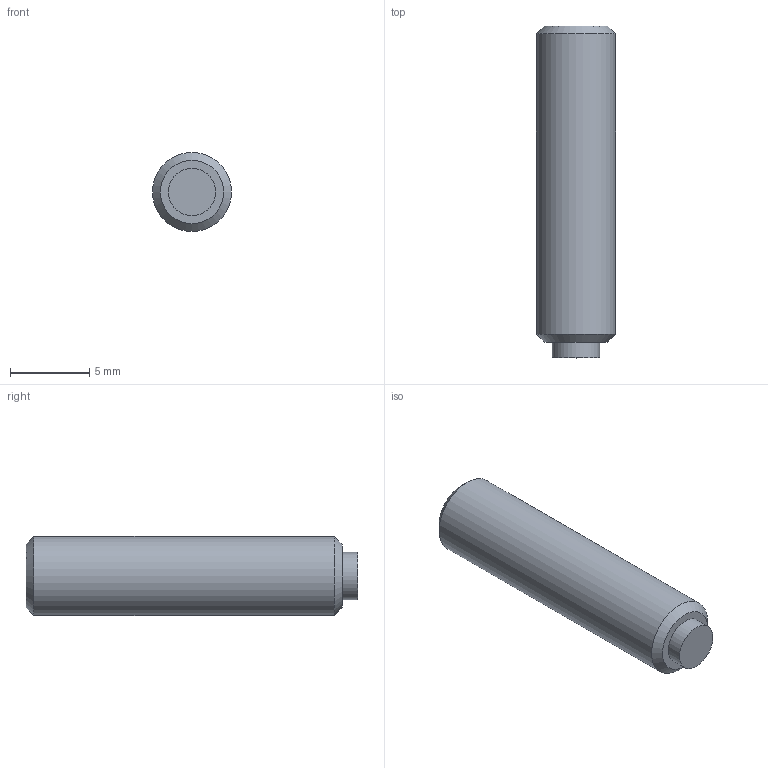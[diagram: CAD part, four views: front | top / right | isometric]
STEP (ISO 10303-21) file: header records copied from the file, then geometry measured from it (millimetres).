
FILE_DESCRIPTION( ( 'STEP AP203' ), '1' );
FILE_NAME( 'C:/Temp/Ganter_Step_05_03_2020/data/3_2/gn913_3/Grub screw GN 913.3-M5-20-KU.stp', '2020-03-13T05:35:35', ( 'License CC BY-ND 4.0' ), ( 'CADENAS' ), ' ', 'PARTsolutions', ' ' );
FILE_SCHEMA( ( 'CONFIG_CONTROL_DESIGN' ) );
Length unit declared in the file: millimetre
Products named in the file (1): _Grub screw GN 913.3-M5-20-KU
Bounding box: 5 x 21 x 5 mm (x, y, z)
Volume: 380 mm3; surface area: 379.2 mm2
Topology: 1 solids, 1 shells, 14 faces, 28 edges, 18 vertices
Faces by surface type: plane 10, cylinder 2, cone 2
Full cylindrical faces by diameter (mm): 3 x1, 5 x1
Entity records: 386 total; most frequent: DIRECTION 60, CARTESIAN_POINT 57, ORIENTED_EDGE 48, EDGE_CURVE 24, AXIS2_PLACEMENT_3D 21, EDGE_LOOP 20, VERTEX_POINT 18, LINE 18
